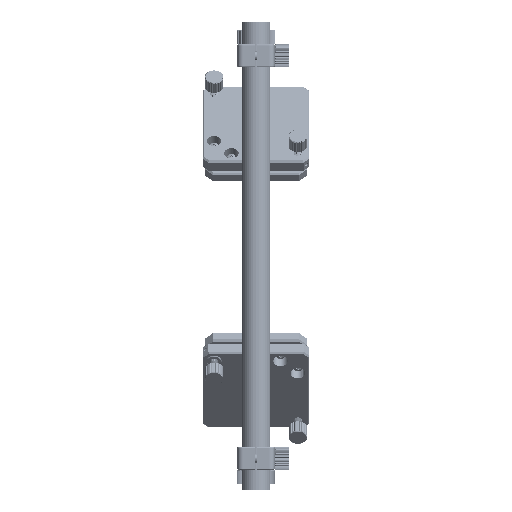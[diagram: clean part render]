
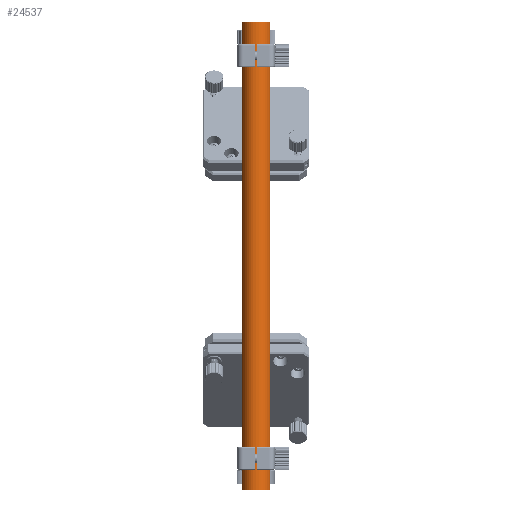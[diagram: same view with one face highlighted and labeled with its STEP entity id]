
A CAD part, front view. The second image highlights one B-rep face of the part: STEP entity #24537.
In plain terms, the highlighted cylindrical face has radius 10 mm (diameter 20 mm), a partial arc.
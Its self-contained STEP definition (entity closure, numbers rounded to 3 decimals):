
#542 = CARTESIAN_POINT ( 'NONE',  ( -10., 0., -162. ) ) ;
#1204 = FACE_OUTER_BOUND ( 'NONE', #23027, .T. ) ;
#1952 = VECTOR ( 'NONE', #2139, 1000. ) ;
#2139 = DIRECTION ( 'NONE',  ( 0., 0., 1. ) ) ;
#2200 = LINE ( 'NONE', #48170, #1952 ) ;
#4776 = DIRECTION ( 'NONE',  ( 1., 0., 0. ) ) ;
#6872 = CIRCLE ( 'NONE', #33691, 10. ) ;
#8550 = EDGE_CURVE ( 'NONE', #31732, #34617, #42633, .T. ) ;
#9808 = DIRECTION ( 'NONE',  ( 0., 0., 1. ) ) ;
#12714 = ORIENTED_EDGE ( 'NONE', *, *, #8550, .T. ) ;
#15835 = DIRECTION ( 'NONE',  ( 1., 0., 0. ) ) ;
#16029 = EDGE_CURVE ( 'NONE', #30225, #34617, #6872, .T. ) ;
#16553 = ORIENTED_EDGE ( 'NONE', *, *, #19726, .T. ) ;
#18071 = VERTEX_POINT ( 'NONE', #542 ) ;
#18776 = CYLINDRICAL_SURFACE ( 'NONE', #29222, 10. ) ;
#19726 = EDGE_CURVE ( 'NONE', #18071, #31732, #37333, .T. ) ;
#20174 = CARTESIAN_POINT ( 'NONE',  ( 0., 0., 162. ) ) ;
#23027 = EDGE_LOOP ( 'NONE', ( #25809, #16553, #12714, #36322 ) ) ;
#23836 = DIRECTION ( 'NONE',  ( 0., 0., 1. ) ) ;
#24537 = ADVANCED_FACE ( 'NONE', ( #1204 ), #18776, .T. ) ;
#25809 = ORIENTED_EDGE ( 'NONE', *, *, #28556, .F. ) ;
#26020 = CARTESIAN_POINT ( 'NONE',  ( 10., 0., -162. ) ) ;
#27864 = DIRECTION ( 'NONE',  ( 1., 0., 0. ) ) ;
#28556 = EDGE_CURVE ( 'NONE', #18071, #30225, #2200, .T. ) ;
#29222 = AXIS2_PLACEMENT_3D ( 'NONE', #35097, #9808, #4776 ) ;
#30225 = VERTEX_POINT ( 'NONE', #39389 ) ;
#31732 = VERTEX_POINT ( 'NONE', #31868 ) ;
#31868 = CARTESIAN_POINT ( 'NONE',  ( 10., 0., -162. ) ) ;
#33691 = AXIS2_PLACEMENT_3D ( 'NONE', #20174, #40115, #27864 ) ;
#34617 = VERTEX_POINT ( 'NONE', #37559 ) ;
#35097 = CARTESIAN_POINT ( 'NONE',  ( 0., 0., -162. ) ) ;
#36322 = ORIENTED_EDGE ( 'NONE', *, *, #16029, .F. ) ;
#37333 = CIRCLE ( 'NONE', #39637, 10. ) ;
#37559 = CARTESIAN_POINT ( 'NONE',  ( 10., 0., 162. ) ) ;
#39389 = CARTESIAN_POINT ( 'NONE',  ( -10., 0., 162. ) ) ;
#39637 = AXIS2_PLACEMENT_3D ( 'NONE', #39954, #23836, #15835 ) ;
#39954 = CARTESIAN_POINT ( 'NONE',  ( 0., 0., -162. ) ) ;
#40115 = DIRECTION ( 'NONE',  ( 0., 0., 1. ) ) ;
#42633 = LINE ( 'NONE', #26020, #43297 ) ;
#43297 = VECTOR ( 'NONE', #45331, 1000. ) ;
#45331 = DIRECTION ( 'NONE',  ( 0., 0., 1. ) ) ;
#48170 = CARTESIAN_POINT ( 'NONE',  ( -10., 0., -162. ) ) ;
